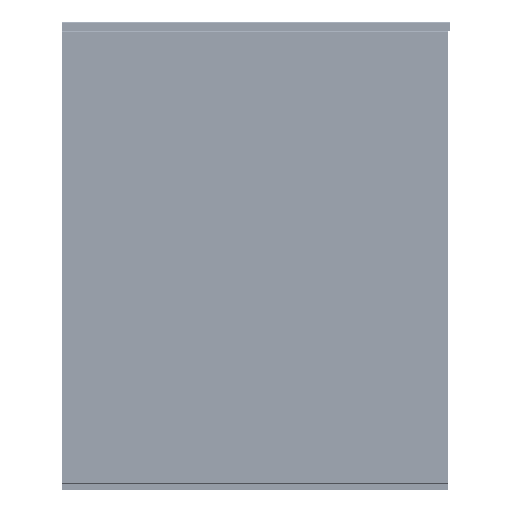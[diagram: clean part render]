
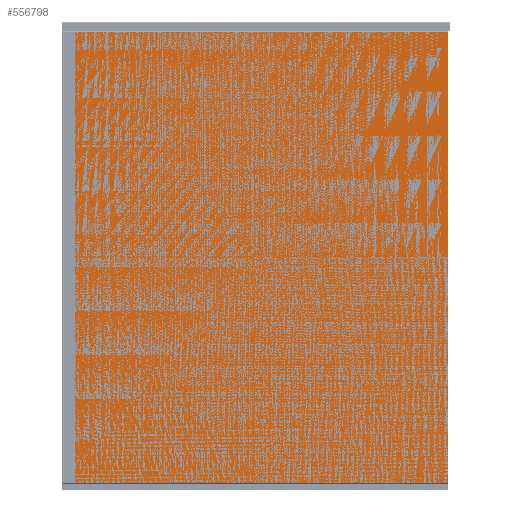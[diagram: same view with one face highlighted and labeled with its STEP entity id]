
A CAD part, left-side view. The second image highlights one B-rep face of the part: STEP entity #556798.
In plain terms, the highlighted free-form (B-spline) face has degree [1, 1] with [2, 2] control points.
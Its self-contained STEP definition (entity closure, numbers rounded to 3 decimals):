
#556505=CARTESIAN_POINT('',(-1361.73,2279.192,611.676));
#556506=VERTEX_POINT('',#556505);
#556507=CARTESIAN_POINT('',(-1361.73,2758.738,611.676));
#556508=VERTEX_POINT('',#556507);
#556509=CARTESIAN_POINT('',(-1361.73,2279.192,611.676));
#556510=DIRECTION('',(0.0,1.0,0.0));
#556511=VECTOR('',#556510,479.545);
#556512=LINE('',#556509,#556511);
#556513=EDGE_CURVE('',#556506,#556508,#556512,.T.);
#556553=CARTESIAN_POINT('',(-1361.73,2758.985,611.454));
#556554=VERTEX_POINT('',#556553);
#556555=CARTESIAN_POINT('',(-1361.73,2758.738,611.676));
#556556=DIRECTION('',(0.0,0.743,-0.669));
#556557=VECTOR('',#556556,0.333);
#556558=LINE('',#556555,#556557);
#556559=EDGE_CURVE('',#556508,#556554,#556558,.T.);
#556592=CARTESIAN_POINT('',(-1361.73,2758.985,29.899));
#556593=VERTEX_POINT('',#556592);
#556594=CARTESIAN_POINT('',(-1361.73,2758.985,611.454));
#556595=DIRECTION('',(0.0,0.0,-1.0));
#556596=VECTOR('',#556595,581.555);
#556597=LINE('',#556594,#556596);
#556598=EDGE_CURVE('',#556554,#556593,#556597,.T.);
#556624=CARTESIAN_POINT('',(-1361.73,2758.738,29.676));
#556625=VERTEX_POINT('',#556624);
#556632=CARTESIAN_POINT('',(-1361.73,2758.985,29.899));
#556633=DIRECTION('',(0.0,-0.743,-0.669));
#556634=VECTOR('',#556633,0.333);
#556635=LINE('',#556632,#556634);
#556636=EDGE_CURVE('',#556593,#556625,#556635,.T.);
#556654=CARTESIAN_POINT('',(-1361.73,2279.192,29.676));
#556655=VERTEX_POINT('',#556654);
#556662=CARTESIAN_POINT('',(-1361.73,2758.738,29.676));
#556663=DIRECTION('',(0.0,-1.0,0.0));
#556664=VECTOR('',#556663,479.545);
#556665=LINE('',#556662,#556664);
#556666=EDGE_CURVE('',#556625,#556655,#556665,.T.);
#556679=CARTESIAN_POINT('',(-1361.73,2278.985,29.884));
#556680=VERTEX_POINT('',#556679);
#556687=CARTESIAN_POINT('',(-1361.73,2279.192,29.676));
#556688=DIRECTION('',(0.0,-0.707,0.707));
#556689=VECTOR('',#556688,0.293);
#556690=LINE('',#556687,#556689);
#556691=EDGE_CURVE('',#556655,#556680,#556690,.T.);
#556703=CARTESIAN_POINT('',(-1361.73,2278.985,611.469));
#556704=VERTEX_POINT('',#556703);
#556711=CARTESIAN_POINT('',(-1361.73,2278.985,29.884));
#556712=DIRECTION('',(0.0,0.0,1.0));
#556713=VECTOR('',#556712,581.586);
#556714=LINE('',#556711,#556713);
#556715=EDGE_CURVE('',#556680,#556704,#556714,.T.);
#556733=CARTESIAN_POINT('',(-1361.73,2278.985,611.469));
#556734=DIRECTION('',(0.0,0.707,0.707));
#556735=VECTOR('',#556734,0.293);
#556736=LINE('',#556733,#556735);
#556737=EDGE_CURVE('',#556704,#556506,#556736,.T.);
#556783=CARTESIAN_POINT('',(-1361.73,2758.985,29.676));
#556784=CARTESIAN_POINT('',(-1361.73,2278.985,29.676));
#556785=CARTESIAN_POINT('',(-1361.73,2758.985,611.676));
#556786=CARTESIAN_POINT('',(-1361.73,2278.985,611.676));
#556787=B_SPLINE_SURFACE_WITH_KNOTS('',1,1,((#556783,#556785),(#556784,#556786)),.UNSPECIFIED.,.F.,.F.,.U.,(2,2),(2,2),(0.0,480.),(0.0,582.),.UNSPECIFIED.);
#556788=ORIENTED_EDGE('',*,*,#556513,.T.);
#556789=ORIENTED_EDGE('',*,*,#556559,.T.);
#556790=ORIENTED_EDGE('',*,*,#556598,.T.);
#556791=ORIENTED_EDGE('',*,*,#556636,.T.);
#556792=ORIENTED_EDGE('',*,*,#556666,.T.);
#556793=ORIENTED_EDGE('',*,*,#556691,.T.);
#556794=ORIENTED_EDGE('',*,*,#556715,.T.);
#556795=ORIENTED_EDGE('',*,*,#556737,.T.);
#556796=EDGE_LOOP('',(#556788,#556789,#556790,#556791,#556792,#556793,#556794,#556795));
#556797=FACE_OUTER_BOUND('',#556796,.T.);
#556798=ADVANCED_FACE('',(#556797),#556787,.T.);
